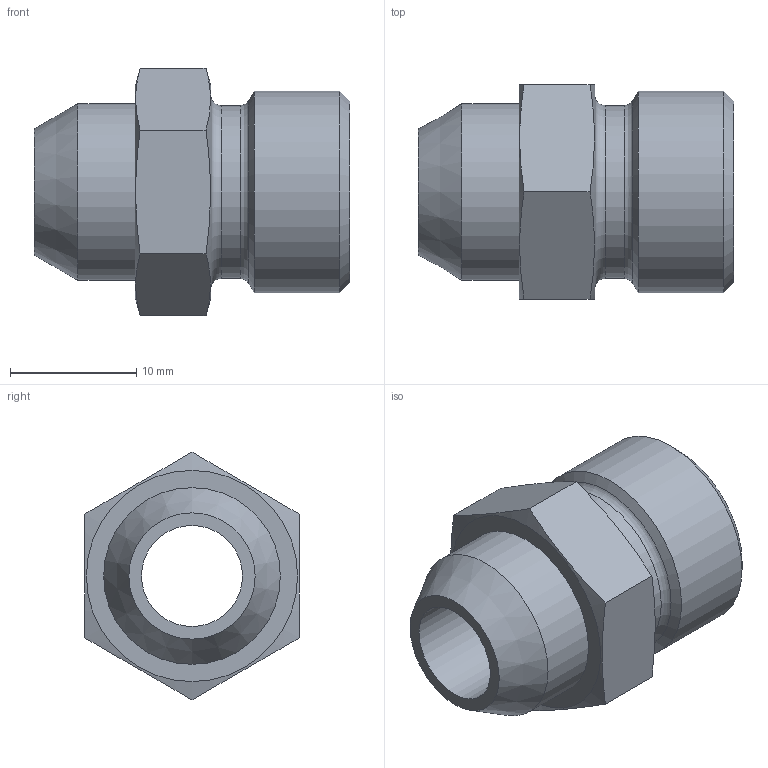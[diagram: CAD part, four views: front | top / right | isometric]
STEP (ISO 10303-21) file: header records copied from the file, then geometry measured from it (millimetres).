
FILE_DESCRIPTION( ( 'Unknown' ), '1' );
FILE_NAME( 'C:/Users/p.nanko/Desktop/3D SR/XASV10L.stp', 'Unknown', ( 'Peter Nanko' ), ( 'Armaturen Arndt' ), 'PSStep 14.0', 'Solid Edge ST4', ' ' );
FILE_SCHEMA( ( 'AUTOMOTIVE_DESIGN { 1 0 10303 214 1 1 1 1 }' ) );
Length unit declared in the file: millimetre
Products named in the file (1): 1
Bounding box: 25 x 17 x 19.63 mm (x, y, z)
Volume: 3065.4 mm3; surface area: 2240.4 mm2
Topology: 1 solids, 1 shells, 24 faces, 49 edges, 30 vertices
Faces by surface type: plane 11, cone 6, cylinder 5, torus 2
Full cylindrical faces by diameter (mm): 8 x1, 10 x1, 13.7 x1, 14 x1, 16 x1
Entity records: 800 total; most frequent: CARTESIAN_POINT 149, DIRECTION 90, ORIENTED_EDGE 70, AXIS2_PLACEMENT_3D 42, EDGE_LOOP 42, EDGE_CURVE 35, FACE_OUTER_BOUND 31, VERTEX_POINT 29
